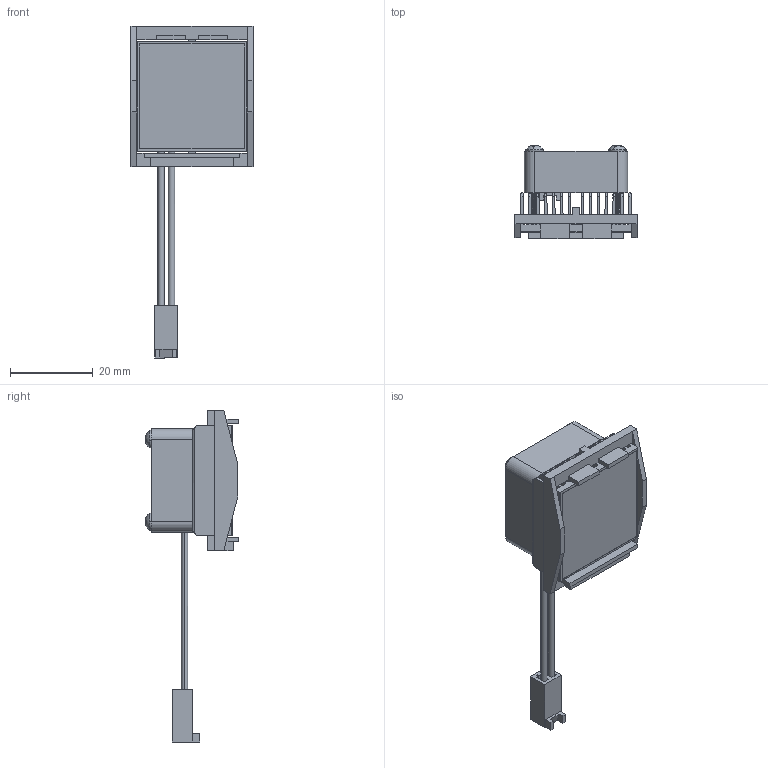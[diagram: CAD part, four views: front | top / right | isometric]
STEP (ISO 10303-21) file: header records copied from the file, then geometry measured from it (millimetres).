
FILE_DESCRIPTION (( 'STEP AP214' ), '1' );
FILE_NAME ('FJ27-1.7+B.STEP', '2023-03-21T23:44:30', ( '' ), ( '' ), 'SwSTEP 2.0', 'SolidWorks 2020', '' );
FILE_SCHEMA (( 'AUTOMOTIVE_DESIGN' ));
Length unit declared in the file: millimetre
Products named in the file (1): FJ27-1.7+B
Bounding box: 29.6 x 22.6 x 80.35 mm (x, y, z)
Volume: 7981.1 mm3; surface area: 15764.3 mm2
Topology: 8 solids, 8 shells, 855 faces, 2490 edges, 1656 vertices
Faces by surface type: cylinder 370, plane 307, bspline 122, cone 40, sphere 8, torus 8
Entity records: 63335 total; most frequent: CARTESIAN_POINT 34092, ORIENTED_EDGE 4980, DIRECTION 3297, EDGE_CURVE 2490, VERTEX_POINT 1656, LINE 1209, VECTOR 1209, AXIS2_PLACEMENT_3D 1044
